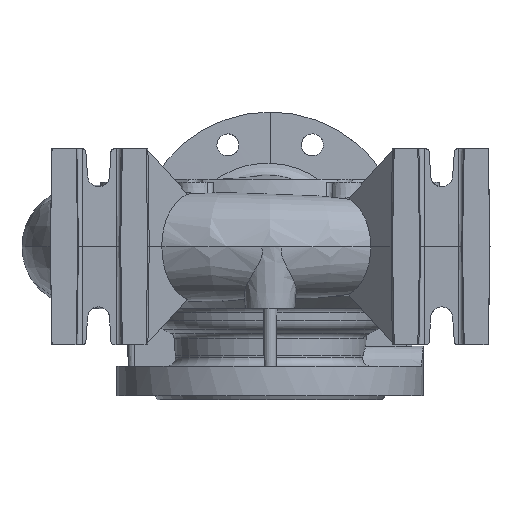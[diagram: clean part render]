
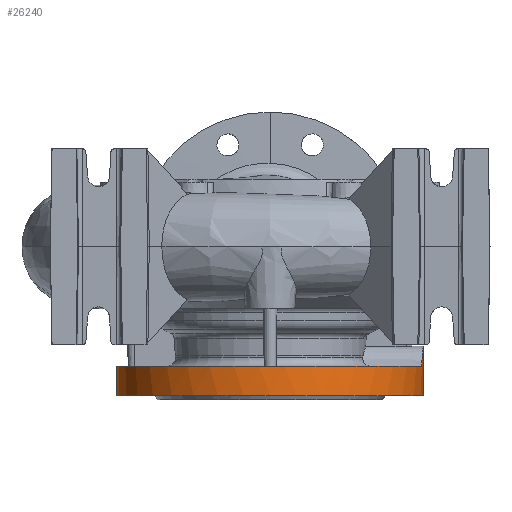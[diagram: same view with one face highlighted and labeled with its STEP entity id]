
A CAD part, front view. The second image highlights one B-rep face of the part: STEP entity #26240.
In plain terms, the highlighted cylindrical face has radius 125 mm (diameter 250 mm), a partial arc.
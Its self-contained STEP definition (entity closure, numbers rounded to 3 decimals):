
#469 = DIRECTION ( 'NONE',  ( 0., 0., -1. ) ) ;
#1138 = CARTESIAN_POINT ( 'NONE',  ( 0., 0., -127.918 ) ) ;
#1432 = FACE_OUTER_BOUND ( 'NONE', #7978, .T. ) ;
#1977 = ORIENTED_EDGE ( 'NONE', *, *, #29256, .T. ) ;
#2223 = CARTESIAN_POINT ( 'NONE',  ( 124.256, -13.629, -87.447 ) ) ;
#2362 = CIRCLE ( 'NONE', #33755, 125. ) ;
#3389 = CARTESIAN_POINT ( 'NONE',  ( 0., 0., -121.5 ) ) ;
#4854 = CARTESIAN_POINT ( 'NONE',  ( 124.982, -2.218, -81.308 ) ) ;
#4978 = CARTESIAN_POINT ( 'NONE',  ( 124.106, -14.925, -89.221 ) ) ;
#6122 = DIRECTION ( 'NONE',  ( -1., 0., 0. ) ) ;
#6940 = CARTESIAN_POINT ( 'NONE',  ( 125., 0., -81.179 ) ) ;
#7577 = CARTESIAN_POINT ( 'NONE',  ( 124.928, -4.389, -81.692 ) ) ;
#7693 = CARTESIAN_POINT ( 'NONE',  ( 124.001, -15.772, -90.652 ) ) ;
#7721 = EDGE_CURVE ( 'NONE', #31292, #18640, #2362, .T. ) ;
#7978 = EDGE_LOOP ( 'NONE', ( #14666, #27963, #1977, #24013, #17258 ) ) ;
#9043 = LINE ( 'NONE', #13961, #14528 ) ;
#10283 = CARTESIAN_POINT ( 'NONE',  ( 124.805, -6.997, -82.597 ) ) ;
#10308 = LINE ( 'NONE', #20705, #18341 ) ;
#10400 = CARTESIAN_POINT ( 'NONE',  ( 123.853, -16.896, -93.172 ) ) ;
#11489 = VERTEX_POINT ( 'NONE', #28081 ) ;
#11762 = VERTEX_POINT ( 'NONE', #6940 ) ;
#11920 = CARTESIAN_POINT ( 'NONE',  ( 0., 0., -97.5 ) ) ;
#12865 = CARTESIAN_POINT ( 'NONE',  ( 125., -0.553, -81.179 ) ) ;
#12985 = CARTESIAN_POINT ( 'NONE',  ( 124.712, -8.496, -83.32 ) ) ;
#13101 = CARTESIAN_POINT ( 'NONE',  ( 123.774, -17.461, -95.301 ) ) ;
#13222 = CIRCLE ( 'NONE', #24860, 125. ) ;
#13961 = CARTESIAN_POINT ( 'NONE',  ( -125., 0., -127.918 ) ) ;
#14528 = VECTOR ( 'NONE', #469, 1000. ) ;
#14626 = DIRECTION ( 'NONE',  ( -1., 0., 0. ) ) ;
#14666 = ORIENTED_EDGE ( 'NONE', *, *, #16469, .F. ) ;
#14976 = CYLINDRICAL_SURFACE ( 'NONE', #28228, 125. ) ;
#15709 = CARTESIAN_POINT ( 'NONE',  ( 124.572, -10.375, -84.46 ) ) ;
#15825 = CARTESIAN_POINT ( 'NONE',  ( 123.736, -17.731, -96.949 ) ) ;
#16036 = EDGE_CURVE ( 'NONE', #11489, #18640, #9043, .T. ) ;
#16469 = EDGE_CURVE ( 'NONE', #11762, #31292, #10308, .T. ) ;
#16560 = EDGE_CURVE ( 'NONE', #11762, #18836, #30950, .T. ) ;
#17258 = ORIENTED_EDGE ( 'NONE', *, *, #7721, .F. ) ;
#17350 = DIRECTION ( 'NONE',  ( -1., 0., 0. ) ) ;
#18078 = CARTESIAN_POINT ( 'NONE',  ( 125., 0., -81.179 ) ) ;
#18341 = VECTOR ( 'NONE', #28960, 1000. ) ;
#18435 = CARTESIAN_POINT ( 'NONE',  ( 124.336, -12.892, -86.631 ) ) ;
#18640 = VERTEX_POINT ( 'NONE', #29287 ) ;
#18836 = VERTEX_POINT ( 'NONE', #18876 ) ;
#18876 = CARTESIAN_POINT ( 'NONE',  ( 123.729, -17.777, -97.5 ) ) ;
#19651 = CARTESIAN_POINT ( 'NONE',  ( 125., 0., -121.5 ) ) ;
#20705 = CARTESIAN_POINT ( 'NONE',  ( 125., 0., -127.918 ) ) ;
#21041 = CARTESIAN_POINT ( 'NONE',  ( 124.996, -1.11, -81.205 ) ) ;
#21162 = CARTESIAN_POINT ( 'NONE',  ( 124.143, -14.616, -88.766 ) ) ;
#22282 = DIRECTION ( 'NONE',  ( 0., 0., -1. ) ) ;
#22778 = DIRECTION ( 'NONE',  ( 0., 0., -1. ) ) ;
#23739 = CARTESIAN_POINT ( 'NONE',  ( 124.971, -2.765, -81.386 ) ) ;
#23848 = CARTESIAN_POINT ( 'NONE',  ( 124.035, -15.503, -90.162 ) ) ;
#24013 = ORIENTED_EDGE ( 'NONE', *, *, #16036, .T. ) ;
#24860 = AXIS2_PLACEMENT_3D ( 'NONE', #11920, #30845, #14626 ) ;
#26240 = ADVANCED_FACE ( 'NONE', ( #1432 ), #14976, .T. ) ;
#26484 = CARTESIAN_POINT ( 'NONE',  ( 124.886, -5.447, -81.994 ) ) ;
#26600 = CARTESIAN_POINT ( 'NONE',  ( 123.906, -16.505, -92.144 ) ) ;
#27963 = ORIENTED_EDGE ( 'NONE', *, *, #16560, .T. ) ;
#28081 = CARTESIAN_POINT ( 'NONE',  ( -125., 0., -97.5 ) ) ;
#28228 = AXIS2_PLACEMENT_3D ( 'NONE', #1138, #22778, #17350 ) ;
#28960 = DIRECTION ( 'NONE',  ( 0., 0., -1. ) ) ;
#29202 = CARTESIAN_POINT ( 'NONE',  ( 124.775, -7.508, -82.824 ) ) ;
#29256 = EDGE_CURVE ( 'NONE', #18836, #11489, #13222, .T. ) ;
#29287 = CARTESIAN_POINT ( 'NONE',  ( -125., 0., -121.5 ) ) ;
#29310 = CARTESIAN_POINT ( 'NONE',  ( 123.792, -17.338, -94.763 ) ) ;
#30845 = DIRECTION ( 'NONE',  ( 0., 0., -1. ) ) ;
#30950 = B_SPLINE_CURVE_WITH_KNOTS ( 'NONE', 3,
 ( #18078, #12865, #21041, #4854, #23739, #7577, #26484, #10283, #29202, #12985, #31913, #15709, #34651, #18435, #2223, #21162, #4978, #23848, #7693, #26600, #10400, #29310, #13101, #32039, #15825, #34768 ),
 .UNSPECIFIED., .F., .F.,
 ( 4, 2, 2, 2, 2, 2, 2, 2, 2, 2, 2, 2, 4 ),
 ( 0.07, 0.072, 0.074, 0.077, 0.079, 0.08, 0.084, 0.087, 0.089, 0.09, 0.094, 0.095, 0.097 ),
 .UNSPECIFIED. ) ;
#31292 = VERTEX_POINT ( 'NONE', #19651 ) ;
#31913 = CARTESIAN_POINT ( 'NONE',  ( 124.678, -8.976, -83.589 ) ) ;
#32039 = CARTESIAN_POINT ( 'NONE',  ( 123.747, -17.658, -96.395 ) ) ;
#33755 = AXIS2_PLACEMENT_3D ( 'NONE', #3389, #22282, #6122 ) ;
#34651 = CARTESIAN_POINT ( 'NONE',  ( 124.495, -11.252, -85.125 ) ) ;
#34768 = CARTESIAN_POINT ( 'NONE',  ( 123.729, -17.777, -97.5 ) ) ;
